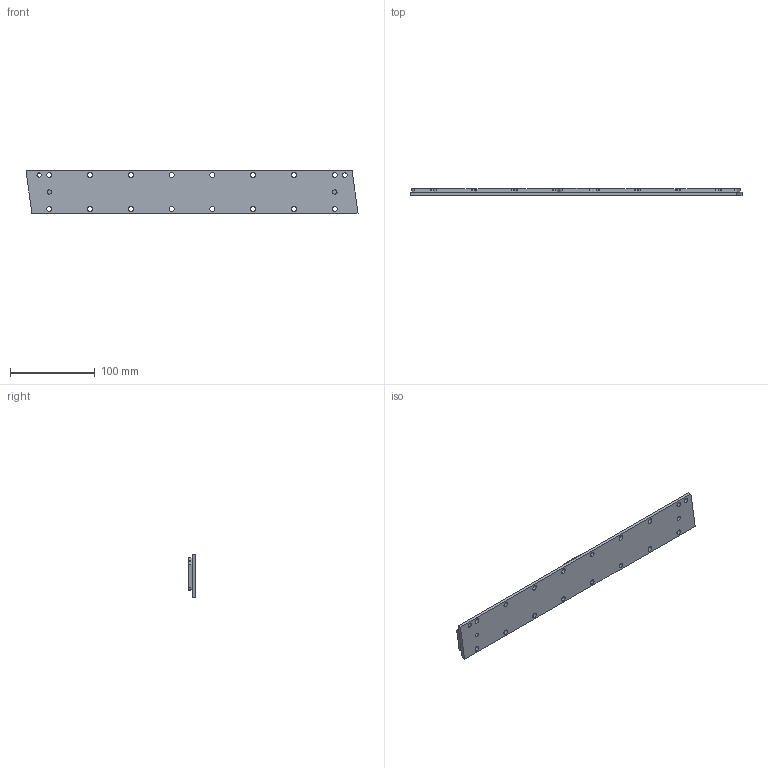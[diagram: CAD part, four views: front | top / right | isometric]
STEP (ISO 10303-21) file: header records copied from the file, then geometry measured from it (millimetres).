
FILE_DESCRIPTION (( 'STEP AP214' ), '1' );
FILE_NAME ('Magnet Plate TD55 384mm.STEP', '2025-03-07T09:33:19', ( '' ), ( '' ), 'SwSTEP 2.0', 'SolidWorks 2023', '' );
FILE_SCHEMA (( 'AUTOMOTIVE_DESIGN' ));
Length unit declared in the file: millimetre
Products named in the file (1): Magnet Plate TD55 384mm
Bounding box: 390.88 x 8.17 x 50 mm (x, y, z)
Volume: 127878.3 mm3; surface area: 45823.2 mm2
Topology: 1 solids, 1 shells, 133 faces, 384 edges, 256 vertices
Faces by surface type: cylinder 100, plane 33
Entity records: 6036 total; most frequent: DIRECTION 852, CARTESIAN_POINT 774, ORIENTED_EDGE 768, EDGE_CURVE 384, AXIS2_PLACEMENT_3D 334, VERTEX_POINT 256, CIRCLE 200, LINE 184
